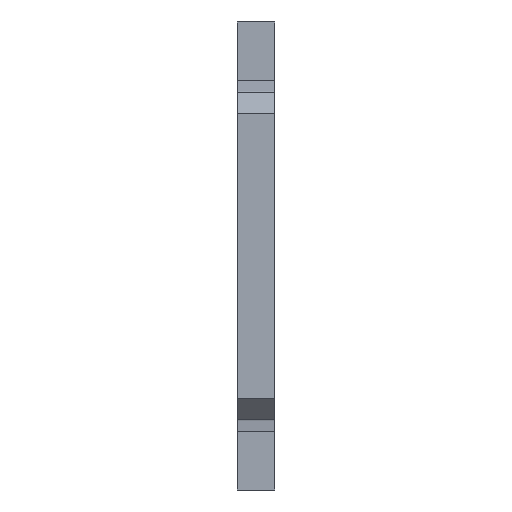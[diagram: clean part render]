
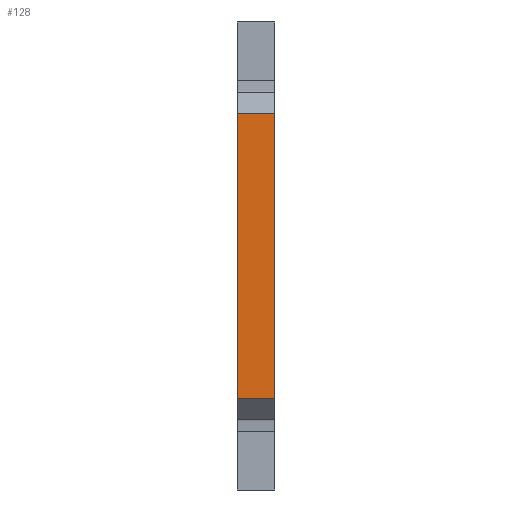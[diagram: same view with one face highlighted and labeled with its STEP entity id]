
A CAD part, front view. The second image highlights one B-rep face of the part: STEP entity #128.
In plain terms, the highlighted planar face has unit normal (0, -1, 0).
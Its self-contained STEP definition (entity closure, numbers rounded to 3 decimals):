
#128=ADVANCED_FACE('',(#190),#691,.T.);
#190=FACE_OUTER_BOUND('',#284,.F.);
#284=EDGE_LOOP('',(#584,#585,#586,#587));
#584=ORIENTED_EDGE('',*,*,#998,.F.);
#585=ORIENTED_EDGE('',*,*,#1086,.F.);
#586=ORIENTED_EDGE('',*,*,#1042,.T.);
#587=ORIENTED_EDGE('',*,*,#1085,.T.);
#691=PLANE('',#1398);
#719=LINE('',#1984,#835);
#747=LINE('',#2028,#863);
#789=LINE('',#2071,#905);
#790=LINE('',#2072,#906);
#835=VECTOR('',#1540,12.2);
#863=VECTOR('',#1600,12.2);
#905=VECTOR('',#1644,1.6);
#906=VECTOR('',#1645,1.6);
#998=EDGE_CURVE('',#1216,#1217,#719,.T.);
#1042=EDGE_CURVE('',#1172,#1173,#747,.T.);
#1085=EDGE_CURVE('',#1173,#1217,#789,.T.);
#1086=EDGE_CURVE('',#1172,#1216,#790,.T.);
#1172=VERTEX_POINT('',#1794);
#1173=VERTEX_POINT('',#1795);
#1216=VERTEX_POINT('',#1838);
#1217=VERTEX_POINT('',#1839);
#1398=AXIS2_PLACEMENT_3D('',#2134,#1749,#1750);
#1540=DIRECTION('',(0.,0.,1.));
#1600=DIRECTION('',(0.,0.,1.));
#1644=DIRECTION('',(1.,0.,0.));
#1645=DIRECTION('',(1.,0.,0.));
#1749=DIRECTION('',(0.,-1.,0.));
#1750=DIRECTION('',(0.,0.,1.));
#1794=CARTESIAN_POINT('',(-2.,-16.9,-109.299));
#1795=CARTESIAN_POINT('',(-2.,-16.9,-97.099));
#1838=CARTESIAN_POINT('',(-0.4,-16.9,-109.299));
#1839=CARTESIAN_POINT('',(-0.4,-16.9,-97.099));
#1984=CARTESIAN_POINT('',(-0.4,-16.9,-109.299));
#2028=CARTESIAN_POINT('',(-2.,-16.9,-109.299));
#2071=CARTESIAN_POINT('',(-2.,-16.9,-97.099));
#2072=CARTESIAN_POINT('',(-2.,-16.9,-109.299));
#2134=CARTESIAN_POINT('',(-0.278,-16.9,-109.421));
